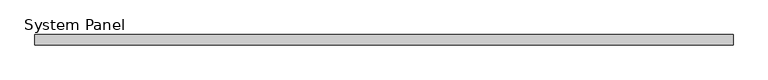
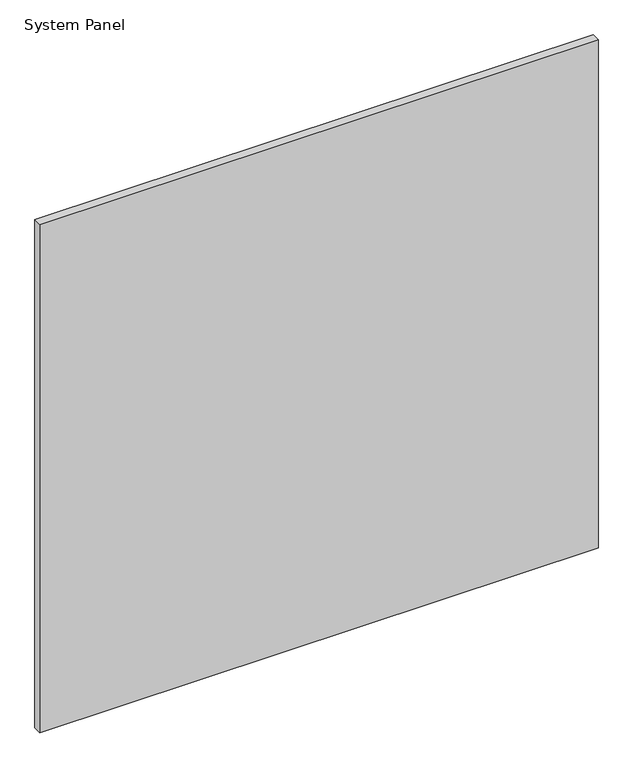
"""IFC4 building model written with IfcOpenShell, lengths in millimetres: plate geometry, System Panel : Panel_Glazed_Generic Showcase_30mm."""

from ifc_helpers import new_model, si_unit, origin, origin_with_axes, place, context, project, spatial, polyline, outline, extrude, source, transform, mapped, element, save


def system_panel_35b3a540(model_context):
    return source(origin(), model_context, "Body", "SweptSolid", [
        extrude(outline(polyline([(1012.5, 0.0), (-1012.5, 0.0), (-1012.5, 30.0), (1012.5, 30.0), (1012.5, 0.0)])), origin_with_axes(), (0.0, 0.0, 1.0), 1950.0),
    ])


if __name__ == "__main__":
    model = new_model("IFC4")
    model_context = context("Model", 3, world=origin())
    ifc_project = project(units=[si_unit("LENGTHUNIT", "METRE", prefix="MILLI")], contexts=[model_context])
    site = spatial("IfcSite", under=ifc_project)
    building = spatial("IfcBuilding", under=site)
    placement = place(None, origin())
    system_panel_shape = system_panel_35b3a540(model_context)
    element("IfcPlate", 1, ObjectType="System Panel : Panel_Glazed_Generic Showcase_30mm", at=placement, inside=building, context=model_context, shape_type="MappedRepresentation", body=[
        mapped(system_panel_shape, transform((0.0, 0.0, 0.0), x_axis=(1.0, 0.0, 0.0), y_axis=(0.0, 1.0, 0.0), z_axis=(0.0, 0.0, 1.0))),
    ])
    save(model, "model.ifc")
